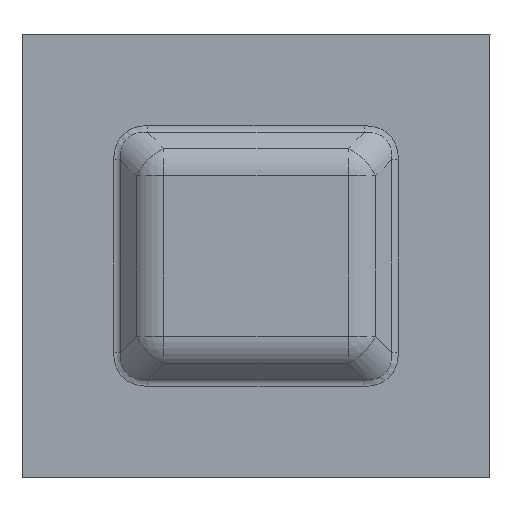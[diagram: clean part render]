
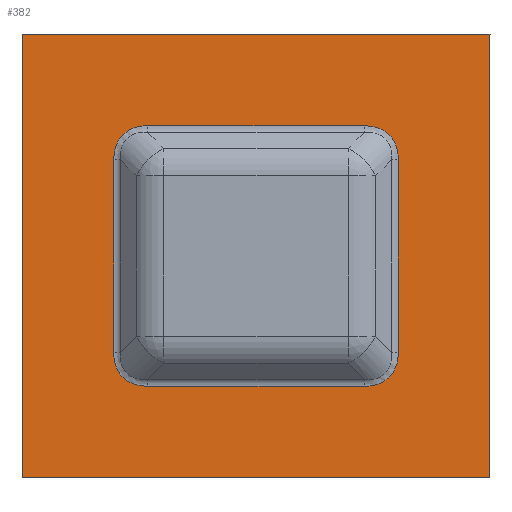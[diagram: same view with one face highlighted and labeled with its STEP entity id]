
A CAD part, top view. The second image highlights one B-rep face of the part: STEP entity #382.
In plain terms, the highlighted planar face has unit normal (0, 0, 1).
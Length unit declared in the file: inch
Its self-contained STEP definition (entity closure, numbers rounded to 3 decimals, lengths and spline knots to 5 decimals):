
#55=CARTESIAN_POINT('',(-9.34836,9.3288,20.70866));
#56=VERTEX_POINT('',#55);
#57=CARTESIAN_POINT('',(-7.81699,9.3288,20.70866));
#58=VERTEX_POINT('',#57);
#59=CARTESIAN_POINT('',(-11.45968,9.3288,20.70866));
#60=DIRECTION('',(1.,0.,0.));
#61=VECTOR('',#60,1.);
#62=LINE('',#59,#61);
#63=EDGE_CURVE('',#56,#58,#62,.T.);
#95=CARTESIAN_POINT('',(-7.81699,10.78143,20.70866));
#96=VERTEX_POINT('',#95);
#97=CARTESIAN_POINT('',(-7.81701,-9.26835,20.70866));
#98=DIRECTION('',(0.,1.,0.));
#99=VECTOR('',#98,1.);
#100=LINE('',#97,#99);
#101=EDGE_CURVE('',#58,#96,#100,.T.);
#244=CARTESIAN_POINT('',(-9.34836,10.78143,20.70866));
#245=VERTEX_POINT('',#244);
#246=CARTESIAN_POINT('',(10.19801,10.78142,20.70866));
#247=DIRECTION('',(-1.,0.,0.));
#248=VECTOR('',#247,1.);
#249=LINE('',#246,#248);
#250=EDGE_CURVE('',#96,#245,#249,.T.);
#270=CARTESIAN_POINT('',(-9.34836,23.199,20.70866));
#271=DIRECTION('',(0.,-1.,0.));
#272=VECTOR('',#271,1.);
#273=LINE('',#270,#272);
#274=EDGE_CURVE('',#245,#56,#273,.T.);
#285=ORIENTED_EDGE('',*,*,#274,.T.);
#286=ORIENTED_EDGE('',*,*,#63,.T.);
#287=ORIENTED_EDGE('',*,*,#101,.T.);
#288=ORIENTED_EDGE('',*,*,#250,.T.);
#289=EDGE_LOOP('',(#285,#286,#287,#288));
#290=FACE_OUTER_BOUND('',#289,.T.);
#291=CARTESIAN_POINT('',(-8.2283,10.48143,20.70866));
#292=VERTEX_POINT('',#291);
#293=CARTESIAN_POINT('',(-8.11699,10.37008,20.70866));
#294=VERTEX_POINT('',#293);
#295=CARTESIAN_POINT('',(-8.2283,10.48143,20.70866));
#296=CARTESIAN_POINT('',(-8.21441,10.48143,20.70866));
#297=CARTESIAN_POINT('',(-8.18895,10.47804,20.70866));
#298=CARTESIAN_POINT('',(-8.15762,10.46314,20.70866));
#299=CARTESIAN_POINT('',(-8.13527,10.4408,20.70866));
#300=CARTESIAN_POINT('',(-8.12035,10.40934,20.70866));
#301=CARTESIAN_POINT('',(-8.11699,10.38399,20.70866));
#302=CARTESIAN_POINT('',(-8.11699,10.37008,20.70866));
#303=B_SPLINE_CURVE_WITH_KNOTS('',3,(#295,#296,#297,#298,#299,#300,#301,#302),.UNSPECIFIED.,.F.,.F.,(4,1,1,1,1,4),(0.,0.2,0.4,0.6,0.8,1.),.UNSPECIFIED.);
#304=EDGE_CURVE('',#292,#294,#303,.T.);
#305=ORIENTED_EDGE('',*,*,#304,.T.);
#306=CARTESIAN_POINT('',(-8.11699,9.74011,20.70866));
#307=VERTEX_POINT('',#306);
#308=CARTESIAN_POINT('',(-8.11699,9.74011,20.70866));
#309=DIRECTION('',(0.,1.,0.));
#310=VECTOR('',#309,0.62997);
#311=LINE('',#308,#310);
#312=EDGE_CURVE('',#307,#294,#311,.T.);
#313=ORIENTED_EDGE('',*,*,#312,.F.);
#314=CARTESIAN_POINT('',(-8.22835,9.6288,20.70866));
#315=VERTEX_POINT('',#314);
#316=CARTESIAN_POINT('',(-8.11699,9.74011,20.70866));
#317=CARTESIAN_POINT('',(-8.11699,9.72643,20.70866));
#318=CARTESIAN_POINT('',(-8.12003,9.70124,20.70866));
#319=CARTESIAN_POINT('',(-8.13559,9.66899,20.70866));
#320=CARTESIAN_POINT('',(-8.15769,9.6471,20.70866));
#321=CARTESIAN_POINT('',(-8.18906,9.63216,20.70866));
#322=CARTESIAN_POINT('',(-8.21442,9.6288,20.70866));
#323=CARTESIAN_POINT('',(-8.22835,9.6288,20.70866));
#324=B_SPLINE_CURVE_WITH_KNOTS('',3,(#316,#317,#318,#319,#320,#321,#322,#323),.UNSPECIFIED.,.F.,.F.,(4,1,1,1,1,4),(0.,0.2,0.4,0.6,0.8,1.),.UNSPECIFIED.);
#325=EDGE_CURVE('',#307,#315,#324,.T.);
#326=ORIENTED_EDGE('',*,*,#325,.T.);
#327=CARTESIAN_POINT('',(-8.93706,9.6288,20.70866));
#328=VERTEX_POINT('',#327);
#329=CARTESIAN_POINT('',(-8.93706,9.6288,20.70866));
#330=DIRECTION('',(1.,0.,0.));
#331=VECTOR('',#330,0.70871);
#332=LINE('',#329,#331);
#333=EDGE_CURVE('',#328,#315,#332,.T.);
#334=ORIENTED_EDGE('',*,*,#333,.F.);
#335=CARTESIAN_POINT('',(-9.04836,9.74016,20.70866));
#336=VERTEX_POINT('',#335);
#337=CARTESIAN_POINT('',(-8.93706,9.6288,20.70866));
#338=CARTESIAN_POINT('',(-8.95074,9.6288,20.70866));
#339=CARTESIAN_POINT('',(-8.97592,9.63184,20.70866));
#340=CARTESIAN_POINT('',(-9.00818,9.6474,20.70866));
#341=CARTESIAN_POINT('',(-9.03006,9.6695,20.70866));
#342=CARTESIAN_POINT('',(-9.045,9.70087,20.70866));
#343=CARTESIAN_POINT('',(-9.04836,9.72623,20.70866));
#344=CARTESIAN_POINT('',(-9.04836,9.74016,20.70866));
#345=B_SPLINE_CURVE_WITH_KNOTS('',3,(#337,#338,#339,#340,#341,#342,#343,#344),.UNSPECIFIED.,.F.,.F.,(4,1,1,1,1,4),(0.,0.2,0.4,0.6,0.8,1.),.UNSPECIFIED.);
#346=EDGE_CURVE('',#328,#336,#345,.T.);
#347=ORIENTED_EDGE('',*,*,#346,.T.);
#348=CARTESIAN_POINT('',(-9.04836,10.37013,20.70866));
#349=VERTEX_POINT('',#348);
#350=CARTESIAN_POINT('',(-9.04836,10.37013,20.70866));
#351=DIRECTION('',(0.,-1.,0.));
#352=VECTOR('',#351,0.62997);
#353=LINE('',#350,#352);
#354=EDGE_CURVE('',#349,#336,#353,.T.);
#355=ORIENTED_EDGE('',*,*,#354,.F.);
#356=CARTESIAN_POINT('',(-8.93701,10.48143,20.70866));
#357=VERTEX_POINT('',#356);
#358=CARTESIAN_POINT('',(-9.04836,10.37013,20.70866));
#359=CARTESIAN_POINT('',(-9.04836,10.38402,20.70866));
#360=CARTESIAN_POINT('',(-9.04497,10.40947,20.70866));
#361=CARTESIAN_POINT('',(-9.03006,10.4408,20.70866));
#362=CARTESIAN_POINT('',(-9.00773,10.46315,20.70866));
#363=CARTESIAN_POINT('',(-8.97627,10.47807,20.70866));
#364=CARTESIAN_POINT('',(-8.95092,10.48143,20.70866));
#365=CARTESIAN_POINT('',(-8.93701,10.48143,20.70866));
#366=B_SPLINE_CURVE_WITH_KNOTS('',3,(#358,#359,#360,#361,#362,#363,#364,#365),.UNSPECIFIED.,.F.,.F.,(4,1,1,1,1,4),(0.,0.2,0.4,0.6,0.8,1.),.UNSPECIFIED.);
#367=EDGE_CURVE('',#349,#357,#366,.T.);
#368=ORIENTED_EDGE('',*,*,#367,.T.);
#369=CARTESIAN_POINT('',(-8.2283,10.48143,20.70866));
#370=DIRECTION('',(-1.,0.,0.));
#371=VECTOR('',#370,0.70871);
#372=LINE('',#369,#371);
#373=EDGE_CURVE('',#292,#357,#372,.T.);
#374=ORIENTED_EDGE('',*,*,#373,.F.);
#375=EDGE_LOOP('',(#305,#313,#326,#334,#347,#355,#368,#374));
#376=FACE_BOUND('',#375,.T.);
#377=CARTESIAN_POINT('',(5.68209,12.36606,20.70866));
#378=DIRECTION('',(0.,0.,-1.));
#379=DIRECTION('',(0.,-1.,0.));
#380=AXIS2_PLACEMENT_3D('',#377,#378,#379);
#381=PLANE('',#380);
#382=ADVANCED_FACE('',(#290,#376),#381,.F.);
